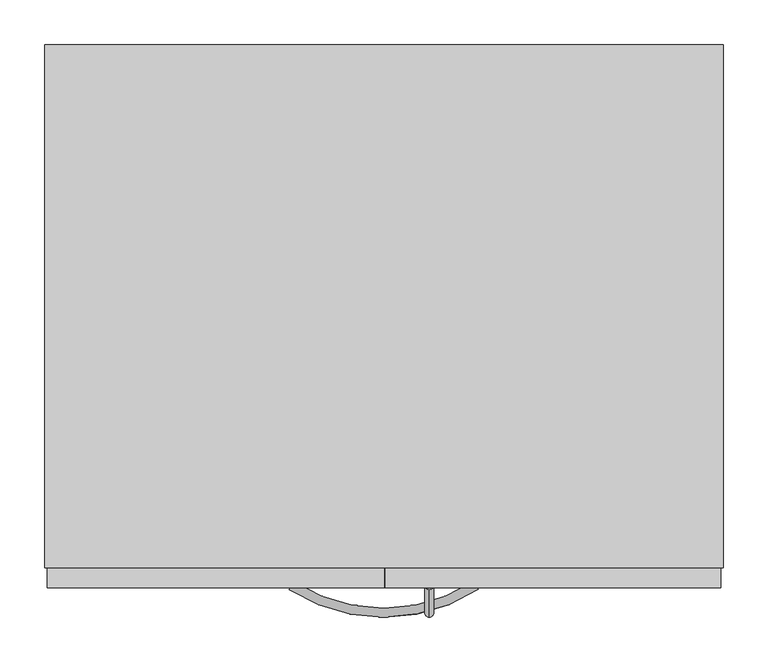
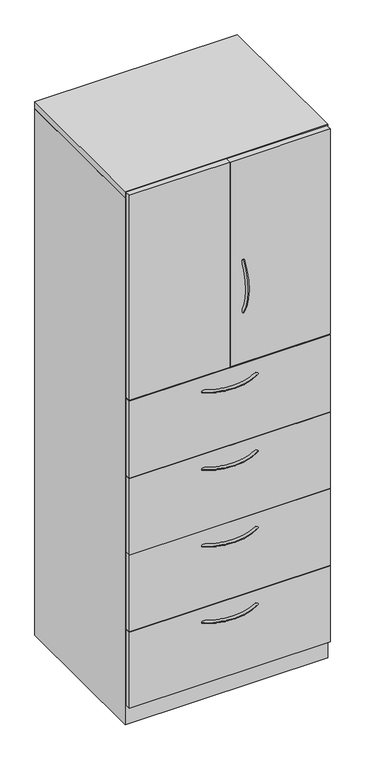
"""IFC4 building model written with IfcOpenShell, lengths in millimetres: furniture geometry, Steelcase - Universal Storage - Cabinet - Combination - Proud Steel : 83 1/2H - Hinged Doors/4 Drawers - 24D x 30W."""

from ifc_helpers import new_model, si_unit, point, frame, origin, place, context, project, spatial, polyline, circle_curve, ellipse_curve, trimmed, outline, extrude, faceted_brep, source, transform, mapped, element, save
from ifc_brep_helpers import plane_surface, revolved_surface, advanced_brep


def furniture_5f391070(model_context):
    return source(origin(), model_context, "Body", "SolidModel", [
        extrude(outline(polyline([(758.8225413, -479.552), (3.1725353, -479.552), (3.1725353, -457.3261219), (758.8225413, -457.3261219), (758.8225413, -479.552)])), frame((0.0, 0.0, 77.724), z_axis=(0.0, 0.0, 1.0), x_axis=(1.0, 0.0, 0.0)), (0.0, 0.0, 1.0), 303.276),
        extrude(outline(polyline([(758.8225413, -479.552), (3.1725353, -479.552), (3.1725353, -457.3261219), (758.8225413, -457.3261219), (758.8225413, -479.552)])), frame((0.0, 0.0, 382.524), z_axis=(0.0, 0.0, 1.0), x_axis=(1.0, 0.0, 0.0)), (0.0, 0.0, 1.0), 303.276),
        extrude(outline(polyline([(758.8225413, -479.552), (3.1725353, -479.552), (3.1725353, -457.3261219), (758.8225413, -457.3261219), (758.8225413, -479.552)])), frame((0.0, 0.0, 687.3240349), z_axis=(0.0, 0.0, 1.0), x_axis=(1.0, 0.0, 0.0)), (0.0, 0.0, 1.0), 303.2759651),
        extrude(outline(polyline([(758.8225413, -479.552), (3.1725353, -479.552), (3.1725353, -457.3261219), (758.8225413, -457.3261219), (758.8225413, -479.552)])), frame((0.0, 0.0, 992.1240349), z_axis=(0.0, 0.0, 1.0), x_axis=(1.0, 0.0, 0.0)), (0.0, 0.0, 1.0), 306.4509893),
        extrude(outline(polyline([(381.0, -479.552), (3.1725353, -479.552), (3.1725353, -457.3261219), (381.0, -457.3261219), (381.0, -479.552)])), frame((0.0, 0.0, 1302.3862596), z_axis=(0.0, 0.0, 1.0), x_axis=(1.0, 0.0, 0.0)), (0.0, 0.0, 1.0), 815.34),
        extrude(outline(polyline([(758.8225413, -479.552), (382.5239992, -479.552), (382.5239992, -457.3261219), (758.8225413, -457.3261219), (758.8225413, -479.552)])), frame((0.0, 0.0, 1302.3862596), z_axis=(0.0, 0.0, 1.0), x_axis=(1.0, 0.0, 0.0)), (0.0, 0.0, 1.0), 815.34),
        advanced_brep(
        [(431.7682496, -481.5705994, 1714.523666), (431.7682496, -473.0108019, 1709.0505073), (431.7682496, -481.1337636, 1502.2167456), (431.7682496, -472.5965612, 1507.7250825)],
        [
            (0, 1, circle_curve(frame((431.7682496, -477.2907007, 1711.7870866), z_axis=(0.0, 0.5386967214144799, 0.842499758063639), x_axis=(0.0, 0.842499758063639, -0.5386967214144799)), 5.08)),
            (1, 0, circle_curve(frame((431.7682496, -477.2907007, 1711.7870866), z_axis=(0.0, 0.5386967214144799, 0.842499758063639), x_axis=(0.0, 0.842499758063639, -0.5386967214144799)), 5.08)),
            (2, 3, circle_curve(frame((431.7682496, -476.8651624, 1504.9709141), z_axis=(0.0, 0.5421591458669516, -0.8402758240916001), x_axis=(0.0, 0.8402758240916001, 0.5421591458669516)), 5.08)),
            (3, 2, circle_curve(frame((431.7682496, -476.8651624, 1504.9709141), z_axis=(0.0, 0.5421591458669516, -0.8402758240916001), x_axis=(0.0, 0.8402758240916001, 0.5421591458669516)), 5.08)),
            (3, 1, circle_curve(frame((431.7682496, -316.0827352, 1608.7102589), z_axis=(-1.0, 0.0, 0.0), x_axis=(0.0, -0.8424997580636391, 0.5386967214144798)), 186.2648211)),
            (0, 2, circle_curve(frame((431.7682496, -316.0827352, 1608.7102589), z_axis=(1.0, 0.0, 0.0), x_axis=(0.0, -0.8424997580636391, 0.5386967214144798)), 196.4248211)),
        ],
        [
            plane_surface(frame((432.5619996, -476.6365286, 1711.3688072), z_axis=(0.0, 0.5386967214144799, 0.8424997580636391), x_axis=(1.0, 0.0, 0.0))),
            plane_surface(frame((432.5619996, -476.2127171, 1505.391882), z_axis=(0.0, 0.5421591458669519, -0.8402758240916), x_axis=(1.0, 0.0, 0.0))),
            revolved_surface(trimmed(ellipse_curve(frame((431.7682496, -477.2907007, 1711.7870866), z_axis=(0.0, 0.5386967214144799, 0.842499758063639), x_axis=(0.0, 0.842499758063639, -0.5386967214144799)), 5.08, 5.08), [point((431.7682496, -481.5705994, 1714.523666))], [point((431.7682496, -473.0108019, 1709.0505073))], True, "CARTESIAN"), (432.5619996, -316.0827352, 1608.7102589), (1.0, 0.0, 0.0)),
            revolved_surface(trimmed(ellipse_curve(frame((431.7682496, -477.2907007, 1711.7870866), z_axis=(0.0, 0.5386967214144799, 0.842499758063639), x_axis=(0.0, 0.842499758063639, -0.5386967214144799)), 5.08, 5.08), [point((431.7682496, -473.0108019, 1709.0505073))], [point((431.7682496, -481.5705994, 1714.523666))], True, "CARTESIAN"), (432.5619996, -316.0827352, 1608.7102589), (1.0, 0.0, 0.0)),
        ],
        [
            (0, [[1, 2]]),
            (1, [[3, 4]]),
            (2, [[5, -1, 6, -4]]),
            (3, [[-6, -2, -5, -3]]),
        ],
    ),
        advanced_brep(
        [(274.4245932, -481.5705994, 1240.6312742), (279.8977519, -473.0108019, 1240.6312742), (486.7315136, -481.1337636, 1240.6312742), (481.2231767, -472.5965612, 1240.6312742)],
        [
            (0, 1, circle_curve(frame((277.1611726, -477.2907007, 1240.6312742), z_axis=(-0.8424997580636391, 0.5386967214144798, 0.0), x_axis=(0.5386967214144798, 0.8424997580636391, 0.0)), 5.08)),
            (1, 0, circle_curve(frame((277.1611726, -477.2907007, 1240.6312742), z_axis=(-0.8424997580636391, 0.5386967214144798, 0.0), x_axis=(0.5386967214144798, 0.8424997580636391, 0.0)), 5.08)),
            (2, 3, circle_curve(frame((483.9773452, -476.8651624, 1240.6312742), z_axis=(0.8402758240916, 0.5421591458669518, 0.0), x_axis=(-0.5421591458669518, 0.8402758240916, 0.0)), 5.08)),
            (3, 2, circle_curve(frame((483.9773452, -476.8651624, 1240.6312742), z_axis=(0.8402758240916, 0.5421591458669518, 0.0), x_axis=(-0.5421591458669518, 0.8402758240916, 0.0)), 5.08)),
            (3, 1, circle_curve(frame((380.2380004, -316.0827352, 1240.6312742), z_axis=(0.0, 0.0, -1.0), x_axis=(-0.5386967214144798, -0.8424997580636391, 0.0)), 186.2648211)),
            (0, 2, circle_curve(frame((380.2380004, -316.0827352, 1240.6312742), z_axis=(0.0, 0.0, 1.0), x_axis=(-0.5386967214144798, -0.8424997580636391, 0.0)), 196.4248211)),
        ],
        [
            plane_surface(frame((277.5794521, -476.6365286, 1241.4250242), z_axis=(-0.8424997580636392, 0.5386967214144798, 0.0), x_axis=(0.0, 0.0, 1.0))),
            plane_surface(frame((483.5563772, -476.2127171, 1241.4250242), z_axis=(0.8402758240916, 0.5421591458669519, 0.0), x_axis=(0.0, 0.0, 1.0))),
            revolved_surface(trimmed(ellipse_curve(frame((277.1611726, -477.2907007, 1240.6312742), z_axis=(-0.8424997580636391, 0.5386967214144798, 0.0), x_axis=(0.5386967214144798, 0.8424997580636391, 0.0)), 5.08, 5.08), [point((274.4245932, -481.5705994, 1240.6312742))], [point((279.8977519, -473.0108019, 1240.6312742))], True, "CARTESIAN"), (380.2380004, -316.0827352, 1241.4250242), (0.0, 0.0, 1.0)),
            revolved_surface(trimmed(ellipse_curve(frame((277.1611726, -477.2907007, 1240.6312742), z_axis=(-0.8424997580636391, 0.5386967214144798, 0.0), x_axis=(0.5386967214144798, 0.8424997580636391, 0.0)), 5.08, 5.08), [point((279.8977519, -473.0108019, 1240.6312742))], [point((274.4245932, -481.5705994, 1240.6312742))], True, "CARTESIAN"), (380.2380004, -316.0827352, 1241.4250242), (0.0, 0.0, 1.0)),
        ],
        [
            (0, [[1, 2]]),
            (1, [[3, 4]]),
            (2, [[5, -1, 6, -4]]),
            (3, [[-6, -2, -5, -3]]),
        ],
    ),
        advanced_brep(
        [(274.4245932, -481.5705994, 323.56425), (279.8977519, -473.0108019, 323.56425), (486.7315136, -481.1337636, 323.56425), (481.2231767, -472.5965612, 323.56425)],
        [
            (0, 1, circle_curve(frame((277.1611726, -477.2907007, 323.56425), z_axis=(-0.8424997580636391, 0.5386967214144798, 0.0), x_axis=(0.5386967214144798, 0.8424997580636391, 0.0)), 5.08)),
            (1, 0, circle_curve(frame((277.1611726, -477.2907007, 323.56425), z_axis=(-0.8424997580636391, 0.5386967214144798, 0.0), x_axis=(0.5386967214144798, 0.8424997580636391, 0.0)), 5.08)),
            (2, 3, circle_curve(frame((483.9773452, -476.8651624, 323.56425), z_axis=(0.8402758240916, 0.5421591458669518, 0.0), x_axis=(-0.5421591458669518, 0.8402758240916, 0.0)), 5.08)),
            (3, 2, circle_curve(frame((483.9773452, -476.8651624, 323.56425), z_axis=(0.8402758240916, 0.5421591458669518, 0.0), x_axis=(-0.5421591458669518, 0.8402758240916, 0.0)), 5.08)),
            (3, 1, circle_curve(frame((380.2380004, -316.0827352, 323.56425), z_axis=(0.0, 0.0, -1.0), x_axis=(-0.5386967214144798, -0.8424997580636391, 0.0)), 186.2648211)),
            (0, 2, circle_curve(frame((380.2380004, -316.0827352, 323.56425), z_axis=(0.0, 0.0, 1.0), x_axis=(-0.5386967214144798, -0.8424997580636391, 0.0)), 196.4248211)),
        ],
        [
            plane_surface(frame((277.5794521, -476.6365286, 324.358), z_axis=(-0.8424997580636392, 0.5386967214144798, 0.0), x_axis=(0.0, 0.0, 1.0))),
            plane_surface(frame((483.5563772, -476.2127171, 324.358), z_axis=(0.8402758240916, 0.5421591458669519, 0.0), x_axis=(0.0, 0.0, 1.0))),
            revolved_surface(trimmed(ellipse_curve(frame((277.1611726, -477.2907007, 323.56425), z_axis=(-0.8424997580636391, 0.5386967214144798, 0.0), x_axis=(0.5386967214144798, 0.8424997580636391, 0.0)), 5.08, 5.08), [point((274.4245932, -481.5705994, 323.56425))], [point((279.8977519, -473.0108019, 323.56425))], True, "CARTESIAN"), (380.2380004, -316.0827352, 324.358), (0.0, 0.0, 1.0)),
            revolved_surface(trimmed(ellipse_curve(frame((277.1611726, -477.2907007, 323.56425), z_axis=(-0.8424997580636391, 0.5386967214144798, 0.0), x_axis=(0.5386967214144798, 0.8424997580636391, 0.0)), 5.08, 5.08), [point((279.8977519, -473.0108019, 323.56425))], [point((274.4245932, -481.5705994, 323.56425))], True, "CARTESIAN"), (380.2380004, -316.0827352, 324.358), (0.0, 0.0, 1.0)),
        ],
        [
            (0, [[1, 2]]),
            (1, [[3, 4]]),
            (2, [[5, -1, 6, -4]]),
            (3, [[-6, -2, -5, -3]]),
        ],
    ),
        advanced_brep(
        [(274.4245932, -481.5705994, 627.85625), (279.8977519, -473.0108019, 627.85625), (486.7315136, -481.1337636, 627.85625), (481.2231767, -472.5965612, 627.85625)],
        [
            (0, 1, circle_curve(frame((277.1611726, -477.2907007, 627.85625), z_axis=(-0.8424997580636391, 0.5386967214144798, 0.0), x_axis=(0.5386967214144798, 0.8424997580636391, 0.0)), 5.08)),
            (1, 0, circle_curve(frame((277.1611726, -477.2907007, 627.85625), z_axis=(-0.8424997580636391, 0.5386967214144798, 0.0), x_axis=(0.5386967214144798, 0.8424997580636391, 0.0)), 5.08)),
            (2, 3, circle_curve(frame((483.9773452, -476.8651624, 627.85625), z_axis=(0.8402758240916, 0.5421591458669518, 0.0), x_axis=(-0.5421591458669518, 0.8402758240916, 0.0)), 5.08)),
            (3, 2, circle_curve(frame((483.9773452, -476.8651624, 627.85625), z_axis=(0.8402758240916, 0.5421591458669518, 0.0), x_axis=(-0.5421591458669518, 0.8402758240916, 0.0)), 5.08)),
            (3, 1, circle_curve(frame((380.2380004, -316.0827352, 627.85625), z_axis=(0.0, 0.0, -1.0), x_axis=(-0.5386967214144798, -0.8424997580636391, 0.0)), 186.2648211)),
            (0, 2, circle_curve(frame((380.2380004, -316.0827352, 627.85625), z_axis=(0.0, 0.0, 1.0), x_axis=(-0.5386967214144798, -0.8424997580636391, 0.0)), 196.4248211)),
        ],
        [
            plane_surface(frame((277.5794521, -476.6365286, 628.65), z_axis=(-0.8424997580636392, 0.5386967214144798, 0.0), x_axis=(0.0, 0.0, 1.0))),
            plane_surface(frame((483.5563772, -476.2127171, 628.65), z_axis=(0.8402758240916, 0.5421591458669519, 0.0), x_axis=(0.0, 0.0, 1.0))),
            revolved_surface(trimmed(ellipse_curve(frame((277.1611726, -477.2907007, 627.85625), z_axis=(-0.8424997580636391, 0.5386967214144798, 0.0), x_axis=(0.5386967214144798, 0.8424997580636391, 0.0)), 5.08, 5.08), [point((274.4245932, -481.5705994, 627.85625))], [point((279.8977519, -473.0108019, 627.85625))], True, "CARTESIAN"), (380.2380004, -316.0827352, 628.65), (0.0, 0.0, 1.0)),
            revolved_surface(trimmed(ellipse_curve(frame((277.1611726, -477.2907007, 627.85625), z_axis=(-0.8424997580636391, 0.5386967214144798, 0.0), x_axis=(0.5386967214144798, 0.8424997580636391, 0.0)), 5.08, 5.08), [point((279.8977519, -473.0108019, 627.85625))], [point((274.4245932, -481.5705994, 627.85625))], True, "CARTESIAN"), (380.2380004, -316.0827352, 628.65), (0.0, 0.0, 1.0)),
        ],
        [
            (0, [[1, 2]]),
            (1, [[3, 4]]),
            (2, [[5, -1, 6, -4]]),
            (3, [[-6, -2, -5, -3]]),
        ],
    ),
        advanced_brep(
        [(274.4245932, -481.5705994, 932.65625), (279.8977519, -473.0108019, 932.65625), (486.7315136, -481.1337636, 932.65625), (481.2231767, -472.5965612, 932.65625)],
        [
            (0, 1, circle_curve(frame((277.1611726, -477.2907007, 932.65625), z_axis=(-0.8424997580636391, 0.5386967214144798, 0.0), x_axis=(0.5386967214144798, 0.8424997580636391, 0.0)), 5.08)),
            (1, 0, circle_curve(frame((277.1611726, -477.2907007, 932.65625), z_axis=(-0.8424997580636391, 0.5386967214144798, 0.0), x_axis=(0.5386967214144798, 0.8424997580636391, 0.0)), 5.08)),
            (2, 3, circle_curve(frame((483.9773452, -476.8651624, 932.65625), z_axis=(0.8402758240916, 0.5421591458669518, 0.0), x_axis=(-0.5421591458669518, 0.8402758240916, 0.0)), 5.08)),
            (3, 2, circle_curve(frame((483.9773452, -476.8651624, 932.65625), z_axis=(0.8402758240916, 0.5421591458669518, 0.0), x_axis=(-0.5421591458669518, 0.8402758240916, 0.0)), 5.08)),
            (3, 1, circle_curve(frame((380.2380004, -316.0827352, 932.65625), z_axis=(0.0, 0.0, -1.0), x_axis=(-0.5386967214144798, -0.8424997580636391, 0.0)), 186.2648211)),
            (0, 2, circle_curve(frame((380.2380004, -316.0827352, 932.65625), z_axis=(0.0, 0.0, 1.0), x_axis=(-0.5386967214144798, -0.8424997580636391, 0.0)), 196.4248211)),
        ],
        [
            plane_surface(frame((277.5794521, -476.6365286, 933.45), z_axis=(-0.8424997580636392, 0.5386967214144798, 0.0), x_axis=(0.0, 0.0, 1.0))),
            plane_surface(frame((483.5563772, -476.2127171, 933.45), z_axis=(0.8402758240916, 0.5421591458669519, 0.0), x_axis=(0.0, 0.0, 1.0))),
            revolved_surface(trimmed(ellipse_curve(frame((277.1611726, -477.2907007, 932.65625), z_axis=(-0.8424997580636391, 0.5386967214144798, 0.0), x_axis=(0.5386967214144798, 0.8424997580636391, 0.0)), 5.08, 5.08), [point((274.4245932, -481.5705994, 932.65625))], [point((279.8977519, -473.0108019, 932.65625))], True, "CARTESIAN"), (380.2380004, -316.0827352, 933.45), (0.0, 0.0, 1.0)),
            revolved_surface(trimmed(ellipse_curve(frame((277.1611726, -477.2907007, 932.65625), z_axis=(-0.8424997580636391, 0.5386967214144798, 0.0), x_axis=(0.5386967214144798, 0.8424997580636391, 0.0)), 5.08, 5.08), [point((279.8977519, -473.0108019, 932.65625))], [point((274.4245932, -481.5705994, 932.65625))], True, "CARTESIAN"), (380.2380004, -316.0827352, 933.45), (0.0, 0.0, 1.0)),
        ],
        [
            (0, [[1, 2]]),
            (1, [[3, 4]]),
            (2, [[5, -1, 6, -4]]),
            (3, [[-6, -2, -5, -3]]),
        ],
    ),
        faceted_brep([(25.4000008, -457.3261219, 76.2), (736.6000242, -457.3261219, 76.2), (736.6000242, 104.6479992, 76.2), (25.4000008, 104.6479992, 76.2), (762.0, 130.048, 0.0), (762.0, -457.3261219, 0.0), (0.0, -457.3261219, 0.0), (0.0, 130.048, 0.0), (0.0, 130.048, 2093.976), (762.0, 130.048, 2093.976), (0.0, -457.3261219, 2093.976), (762.0, -457.3261219, 2093.976), (736.6000242, -457.3261219, 2093.976), (25.4000008, -457.3261219, 2093.976), (736.6000242, 104.6479992, 2093.976), (25.4000008, 104.6479992, 2093.976)], [[[0, 1, 2, 3]], [[4, 5, 6, 7]], [[4, 7, 8, 9]], [[8, 7, 6, 10]], [[10, 6, 5, 11, 12, 1, 0, 13]], [[11, 5, 4, 9]], [[14, 12, 11, 9, 8, 10, 13, 15]], [[12, 14, 2, 1]], [[15, 13, 0, 3]], [[14, 15, 3, 2]]]),
        extrude(outline(polyline([(762.0, 130.048), (762.0, -457.3261219), (0.0, -457.3261219), (0.0, 130.048), (762.0, 130.048)])), frame((0.0, 0.0, 2095.4999516), z_axis=(0.0, 0.0, 1.0), x_axis=(1.0, 0.0, 0.0)), (0.0, 0.0, 1.0), 25.4000484),
    ])


if __name__ == "__main__":
    model = new_model("IFC4")
    model_context = context("Model", 3, world=origin())
    ifc_project = project(units=[si_unit("LENGTHUNIT", "METRE", prefix="MILLI")], contexts=[model_context])
    site = spatial("IfcSite", under=ifc_project)
    building = spatial("IfcBuilding", under=site)
    placement = place(None, origin())
    furniture_shape = furniture_5f391070(model_context)
    element("IfcFurniture", 1, ObjectType="Steelcase - Universal Storage - Cabinet - Combination - Proud Steel : 83 1/2H - Hinged Doors/4 Drawers - 24D x 30W", at=placement, inside=building, context=model_context, shape_type="MappedRepresentation", body=[
        mapped(furniture_shape, transform((0.0, 0.0, 0.0), x_axis=(1.0, 0.0, 0.0), y_axis=(0.0, 1.0, 0.0), z_axis=(0.0, 0.0, 1.0))),
    ])
    save(model, "model.ifc")
